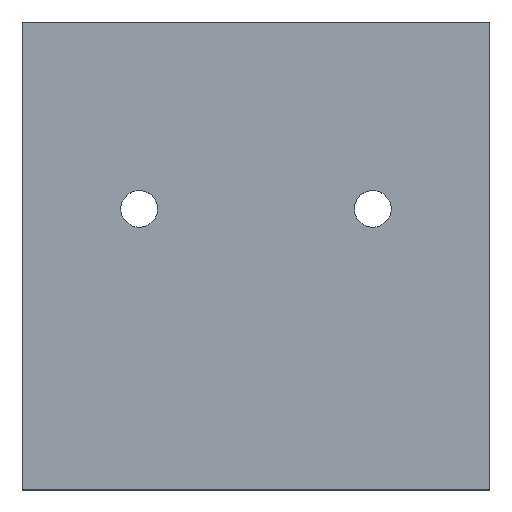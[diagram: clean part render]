
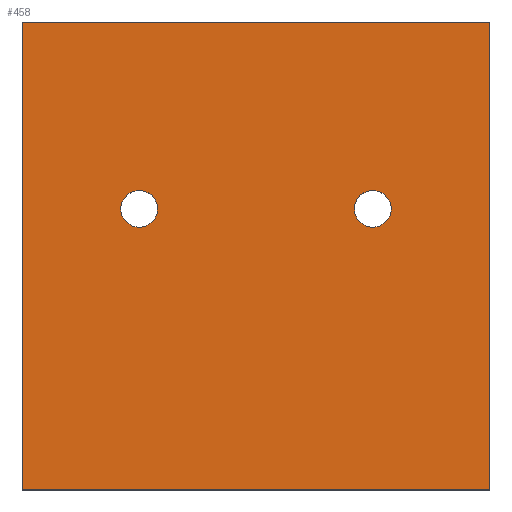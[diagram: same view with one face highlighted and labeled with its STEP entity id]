
A CAD part, top view. The second image highlights one B-rep face of the part: STEP entity #458.
In plain terms, the highlighted planar face has unit normal (0, 0, 1).
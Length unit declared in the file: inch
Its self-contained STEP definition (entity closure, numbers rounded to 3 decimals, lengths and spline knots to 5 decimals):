
#19 = DIRECTION ( 'NONE',  ( -1., 0., 0. ) ) ;
#26 = CIRCLE ( 'NONE', #200, 0.07874 ) ;
#28 = DIRECTION ( 'NONE',  ( -1., 0., 0. ) ) ;
#57 = VERTEX_POINT ( 'NONE', #146 ) ;
#61 = AXIS2_PLACEMENT_3D ( 'NONE', #250, #247, #537 ) ;
#62 = EDGE_CURVE ( 'NONE', #380, #363, #26, .T. ) ;
#70 = CARTESIAN_POINT ( 'NONE',  ( 0.5, 1.2, 0. ) ) ;
#79 = ORIENTED_EDGE ( 'NONE', *, *, #400, .T. ) ;
#97 = DIRECTION ( 'NONE',  ( 0., -1., 0. ) ) ;
#98 = VECTOR ( 'NONE', #28, 39.37008 ) ;
#102 = DIRECTION ( 'NONE',  ( -1., 0., 0. ) ) ;
#106 = ORIENTED_EDGE ( 'NONE', *, *, #495, .T. ) ;
#112 = CARTESIAN_POINT ( 'NONE',  ( 2., 0., 0. ) ) ;
#119 = DIRECTION ( 'NONE',  ( -1., 0., 0. ) ) ;
#128 = CIRCLE ( 'NONE', #130, 0.07874 ) ;
#130 = AXIS2_PLACEMENT_3D ( 'NONE', #253, #568, #303 ) ;
#146 = CARTESIAN_POINT ( 'NONE',  ( 0., 2., 0. ) ) ;
#160 = CARTESIAN_POINT ( 'NONE',  ( 1.57874, 1.2, 0. ) ) ;
#169 = ORIENTED_EDGE ( 'NONE', *, *, #214, .T. ) ;
#171 = CARTESIAN_POINT ( 'NONE',  ( 2., 0., 0. ) ) ;
#183 = DIRECTION ( 'NONE',  ( -1., 0., 0. ) ) ;
#185 = ORIENTED_EDGE ( 'NONE', *, *, #62, .T. ) ;
#195 = VECTOR ( 'NONE', #119, 39.37008 ) ;
#200 = AXIS2_PLACEMENT_3D ( 'NONE', #70, #508, #19 ) ;
#214 = EDGE_CURVE ( 'NONE', #263, #57, #215, .T. ) ;
#215 = LINE ( 'NONE', #244, #195 ) ;
#218 = CARTESIAN_POINT ( 'NONE',  ( 0.42126, 1.2, 0. ) ) ;
#224 = EDGE_LOOP ( 'NONE', ( #320, #273, #297, #169 ) ) ;
#241 = CIRCLE ( 'NONE', #542, 0.07874 ) ;
#244 = CARTESIAN_POINT ( 'NONE',  ( 2., 2., 0. ) ) ;
#247 = DIRECTION ( 'NONE',  ( 0., 0., -1. ) ) ;
#250 = CARTESIAN_POINT ( 'NONE',  ( 0.5, 1.2, 0. ) ) ;
#253 = CARTESIAN_POINT ( 'NONE',  ( 1.5, 1.2, 0. ) ) ;
#260 = AXIS2_PLACEMENT_3D ( 'NONE', #316, #493, #102 ) ;
#263 = VERTEX_POINT ( 'NONE', #306 ) ;
#268 = FACE_OUTER_BOUND ( 'NONE', #224, .T. ) ;
#272 = EDGE_CURVE ( 'NONE', #556, #450, #128, .T. ) ;
#273 = ORIENTED_EDGE ( 'NONE', *, *, #535, .F. ) ;
#297 = ORIENTED_EDGE ( 'NONE', *, *, #386, .F. ) ;
#303 = DIRECTION ( 'NONE',  ( -1., 0., 0. ) ) ;
#306 = CARTESIAN_POINT ( 'NONE',  ( 2., 2., 0. ) ) ;
#309 = VERTEX_POINT ( 'NONE', #471 ) ;
#310 = CARTESIAN_POINT ( 'NONE',  ( 0.57874, 1.2, 0. ) ) ;
#314 = DIRECTION ( 'NONE',  ( 0., -1., 0. ) ) ;
#316 = CARTESIAN_POINT ( 'NONE',  ( 2., 0., 0. ) ) ;
#320 = ORIENTED_EDGE ( 'NONE', *, *, #433, .T. ) ;
#330 = VERTEX_POINT ( 'NONE', #171 ) ;
#355 = DIRECTION ( 'NONE',  ( 0., 0., -1. ) ) ;
#363 = VERTEX_POINT ( 'NONE', #218 ) ;
#380 = VERTEX_POINT ( 'NONE', #310 ) ;
#386 = EDGE_CURVE ( 'NONE', #263, #330, #470, .T. ) ;
#399 = CARTESIAN_POINT ( 'NONE',  ( 0., 0., 0. ) ) ;
#400 = EDGE_CURVE ( 'NONE', #450, #556, #241, .T. ) ;
#413 = PLANE ( 'NONE',  #260 ) ;
#430 = ORIENTED_EDGE ( 'NONE', *, *, #272, .T. ) ;
#433 = EDGE_CURVE ( 'NONE', #57, #309, #523, .T. ) ;
#436 = FACE_BOUND ( 'NONE', #511, .T. ) ;
#445 = VECTOR ( 'NONE', #97, 39.37008 ) ;
#450 = VERTEX_POINT ( 'NONE', #160 ) ;
#458 = ADVANCED_FACE ( 'NONE', ( #505, #436, #268 ), #413, .F. ) ;
#470 = LINE ( 'NONE', #536, #445 ) ;
#471 = CARTESIAN_POINT ( 'NONE',  ( 0., 0., 0. ) ) ;
#480 = EDGE_LOOP ( 'NONE', ( #430, #79 ) ) ;
#487 = CARTESIAN_POINT ( 'NONE',  ( 1.5, 1.2, 0. ) ) ;
#493 = DIRECTION ( 'NONE',  ( 0., 0., -1. ) ) ;
#495 = EDGE_CURVE ( 'NONE', #363, #380, #496, .T. ) ;
#496 = CIRCLE ( 'NONE', #61, 0.07874 ) ;
#505 = FACE_BOUND ( 'NONE', #480, .T. ) ;
#508 = DIRECTION ( 'NONE',  ( 0., 0., -1. ) ) ;
#509 = CARTESIAN_POINT ( 'NONE',  ( 1.42126, 1.2, 0. ) ) ;
#511 = EDGE_LOOP ( 'NONE', ( #106, #185 ) ) ;
#523 = LINE ( 'NONE', #399, #555 ) ;
#535 = EDGE_CURVE ( 'NONE', #330, #309, #539, .T. ) ;
#536 = CARTESIAN_POINT ( 'NONE',  ( 2., 0., 0. ) ) ;
#537 = DIRECTION ( 'NONE',  ( -1., 0., 0. ) ) ;
#539 = LINE ( 'NONE', #112, #98 ) ;
#542 = AXIS2_PLACEMENT_3D ( 'NONE', #487, #355, #183 ) ;
#555 = VECTOR ( 'NONE', #314, 39.37008 ) ;
#556 = VERTEX_POINT ( 'NONE', #509 ) ;
#568 = DIRECTION ( 'NONE',  ( 0., 0., -1. ) ) ;
